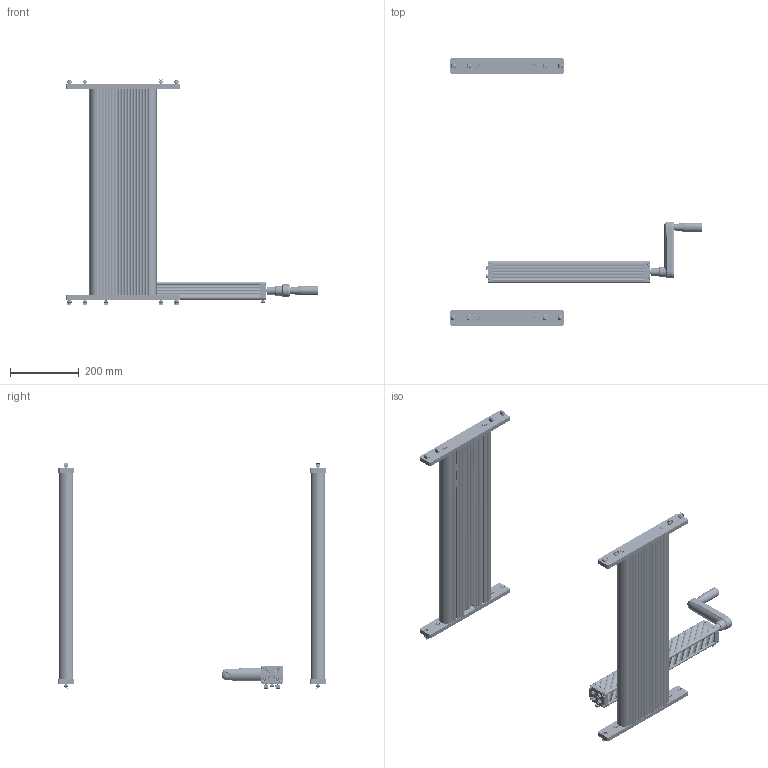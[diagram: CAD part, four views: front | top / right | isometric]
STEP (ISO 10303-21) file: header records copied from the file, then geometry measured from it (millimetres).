
FILE_DESCRIPTION((''),'2;1');
FILE_NAME('C:\Andys Backup Data\WEBSITE\DREAMWEAVER\MiniTec\Products\HYDRAULIC_VERTICAL_ADJUSTMENT\CAD\STEP\27.9001 TELESCOPING TWIN LEG SYSTEM.stp','2013-12-16T08:16:32',('Admin'),(''),'Autodesk Inventor 2012','Autodesk Inventor 2012','');
FILE_SCHEMA(('AUTOMOTIVE_DESIGN { 1 0 10303 214 1 1 1 1 }'));
Length unit declared in the file: millimetre
Products named in the file (51): 27.9001 TELESCOPING TWIN LEG SYSTEM; 27.9001 LEG ASSY COMPLETE; 27.9001 OUTER LEG PROFILE; 27.9001 INNER LEG PROFILE; CEx30; 655.00001 14MM CX  BUSHING; H51-0005 CE & CS RODS (8MM R-RING)_651-00503G; GROOVED 16MM CYLINDER TUBES_653-01102; D67-00554 14MM CE C-HEAD ASSY; 667-00554 14MM CE CONNECTING HEAD; H60-0004 O-RINGS_660-00026; 662-00001 TRANSPORT SCREW; 657-00006 14MM CX PISTON ASSEMBLY; H60 0003 PISTON BACKUP RINGS_660-00001A; H60-0004 O-RINGS_660-00004; 657-00001 14MM CX CYLINDER PISTON; 98541A405 SNAP RING; 27.9001_2 TOP MOUNTING PLATE; 21.1206 M8 x 30; 21.1202  M8 x 20; 21.1351_2 M8 SQUARE NUT POS FXG; 27.9001_3 BOTTOM MOUNTING PLATE; PUMP ASSY COMPLETE; Qxx18_crank; D44-00039 130mm AL Crank; 665-02106 Crank Body; 697-00125 M6X16 FLATHEAD CAP SCREW; 644-01043 FOLDING HANDLE_Open Handle; Sankq_Base_20x20; NONE; NONE_1; Sankq_7011P566_Handle; NONE_2; NONE_3; NONE_4; NONE_5; 665-02107 HEX CRANK ADAPTER; 697-00124 M5X50 FLATHEAD CAP SCREW; S43-0008 QUAD PUMP WITH SPLINED SHAFT; Quad Frontplate Assembly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
Assembly tree (88 placements, depth 7):
  27.9001 TELESCOPING TWIN LEG SYSTEM
    27.9001 LEG ASSY COMPLETE  x2
      27.9001 OUTER LEG PROFILE
      27.9001 INNER LEG PROFILE
      CEx30
        655.00001 14MM CX  BUSHING
        H51-0005 CE & CS RODS (8MM R-RING)_651-00503G
        GROOVED 16MM CYLINDER TUBES_653-01102
        D67-00554 14MM CE C-HEAD ASSY
          667-00554 14MM CE CONNECTING HEAD
          H60-0004 O-RINGS_660-00026
        662-00001 TRANSPORT SCREW
        657-00006 14MM CX PISTON ASSEMBLY
          H60 0003 PISTON BACKUP RINGS_660-00001A
          H60-0004 O-RINGS_660-00004
          657-00001 14MM CX CYLINDER PISTON
        98541A405 SNAP RING
      27.9001_2 TOP MOUNTING PLATE
      21.1206 M8 x 30
      21.1202  M8 x 20
      21.1351_2 M8 SQUARE NUT POS FXG
      27.9001_3 BOTTOM MOUNTING PLATE
    PUMP ASSY COMPLETE
      Qxx18_crank
        D44-00039 130mm AL Crank
          665-02106 Crank Body
          697-00125 M6X16 FLATHEAD CAP SCREW
          644-01043 FOLDING HANDLE_Open Handle
            Sankq_Base_20x20
              NONE
              NONE_1
            Sankq_7011P566_Handle
              NONE_2
              NONE_3
              NONE_4
              NONE_5
          665-02107 HEX CRANK ADAPTER
        697-00124 M5X50 FLATHEAD CAP SCREW
        S43-0008 QUAD PUMP WITH SPLINED SHAFT
          Quad Frontplate Assembly
            655-01002 Quad Frontplate Bushing
            665-02103 Quad Frontplate
          Quad Connecting Plug_18mm  x4
          662-00001 TRANSPORT SCREW  x4
          668-01001 M5X30 TAPTITE TORX SCREW  x8
          Splined_Shaft
          Quad Pump Housing_180 Stroke
          665-02102 Quad Endplate
      21.9757 M5x60 CSUNK  x3
      21.1320_2 M5 SQUARE NUT POS FXG  x3
    21.9160_1 M6 ECONO-NUT 30 SS  x4
Bounding box: 731.29 x 776.41 x 656.01 mm (x, y, z)
Volume: 4339337.1 mm3; surface area: 3023729.7 mm2
Topology: 109 solids, 109 shells, 5628 faces, 16294 edges, 11001 vertices
Faces by surface type: cylinder 2501, plane 1809, cone 518, torus 421, bspline 351, sphere 28
Full cylindrical faces by diameter (mm): 1.7 x4, 2 x1, 2.2 x1, 2.8 x1, 2.998 x1, 3 x10, 3.5 x6, 4 x4, 4.113 x6, 4.2 x11, 4.763 x4, 4.917 x4, 5 x4, 5.5 x2, 5.663 x6, 5.9 x2, 6 x4, 6.1 x6, 6.35 x5, 7 x6, 7.035 x6, 7.4 x2, 7.5 x10, 8 x51, 9 x26, 9.3 x8, 9.99 x1, 10 x10, 10.03 x1, 10.06 x1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
Entity records: 157196 total; most frequent: CARTESIAN_POINT 72393, ORIENTED_EDGE 17706, DIRECTION 17343, EDGE_CURVE 8853, AXIS2_PLACEMENT_3D 7078, VERTEX_POINT 5954, EDGE_LOOP 3887, CIRCLE 3687
